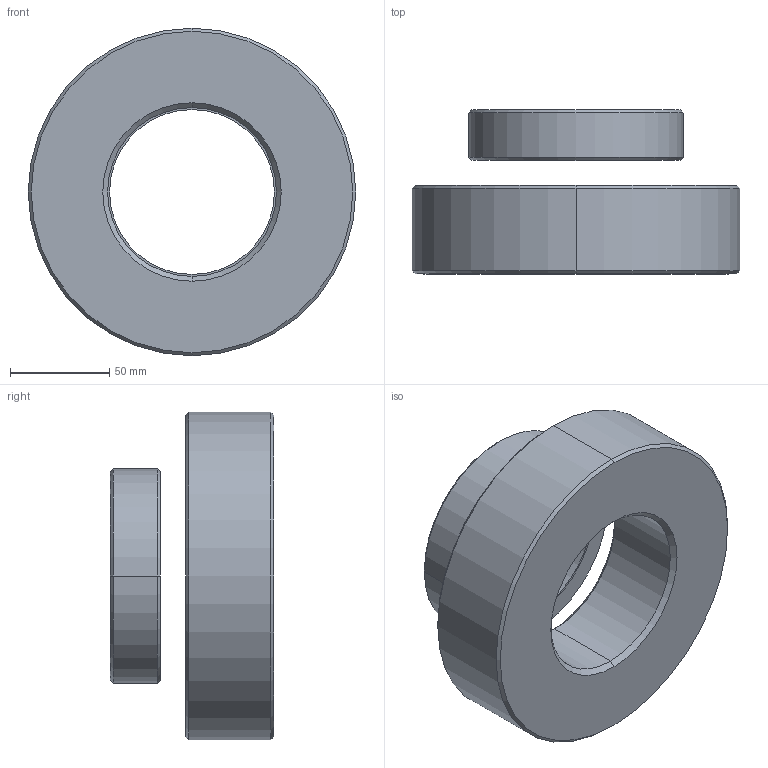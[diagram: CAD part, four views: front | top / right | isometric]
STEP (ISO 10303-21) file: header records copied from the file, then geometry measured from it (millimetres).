
FILE_DESCRIPTION((''),'2;1');
FILE_NAME('BAD192_ASM','2016-12-14T',('mike.ward'),(''),'CREO PARAMETRIC BY PTC INC, 2015290','CREO PARAMETRIC BY PTC INC, 2015290','');
FILE_SCHEMA(('CONFIG_CONTROL_DESIGN'));
Products named in the file (3): BSS5907D; BSS5911D; BAD192_ASM
Assembly tree (2 placements, depth 2):
  BAD192_ASM
    BSS5907D
    BSS5911D
Bounding box: 165 x 82.6 x 165 mm (x, y, z)
Volume: 738919.1 mm3; surface area: 103134.6 mm2
Topology: 2 solids, 3 shells, 62 faces, 138 edges, 78 vertices
Faces by surface type: cylinder 30, cone 24, plane 8
Entity records: 1748 total; most frequent: DIRECTION 336, CARTESIAN_POINT 273, ORIENTED_EDGE 248, AXIS2_PLACEMENT_3D 141, EDGE_CURVE 126, VERTEX_POINT 78, EDGE_LOOP 76, CIRCLE 72
